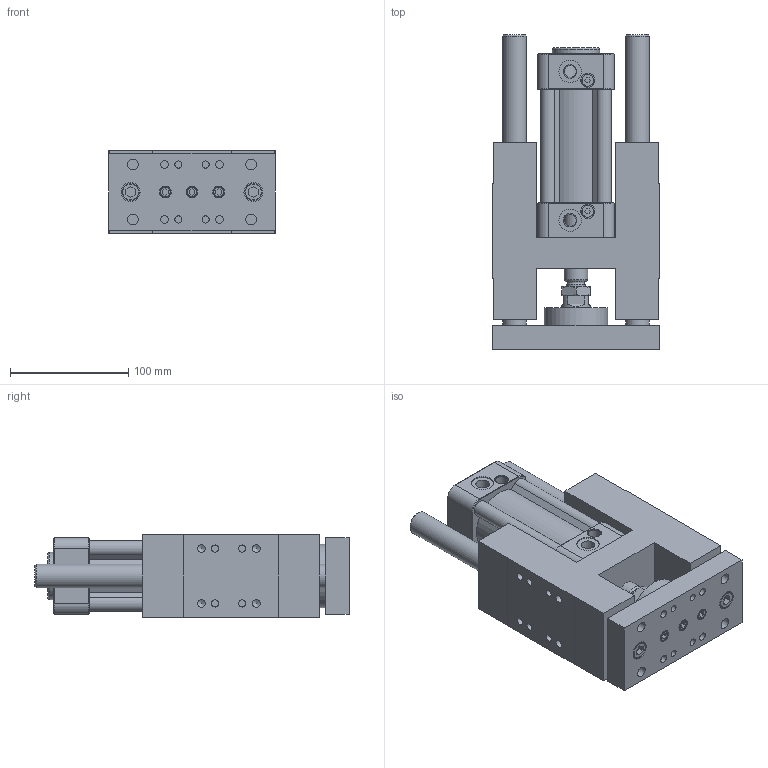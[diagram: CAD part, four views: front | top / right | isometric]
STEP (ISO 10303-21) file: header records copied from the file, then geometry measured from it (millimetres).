
FILE_DESCRIPTION((''),'2;1');
FILE_NAME('I:\3D電子目錄\氣缸\GHB(U)\GHB(U)\GHB(U)50\GHB(U)50x50.stp','2007-10-19T16:36:41',('Administrator'),(''),'Autodesk Inventor 11','Autodesk Inventor 11','');
FILE_SCHEMA(('AUTOMOTIVE_DESIGN { 1 0 10303 214 1 1 1 1 }'));
Length unit declared in the file: millimetre
Products named in the file (1): GHB(U)50
Bounding box: 141 x 266 x 70 mm (x, y, z)
Volume: 1423175.7 mm3; surface area: 257371.4 mm2
Topology: 1 solids, 13 shells, 779 faces, 1736 edges, 1075 vertices
Faces by surface type: plane 299, bspline 222, cylinder 163, cone 88, torus 7
Full cylindrical faces by diameter (mm): 2.5 x2, 6 x8, 6.647 x4, 6.7 x2, 6.75 x4, 7.25 x2, 7.4 x4, 7.5 x2, 8.5 x9, 9 x2, 9.8 x4, 10 x5, 11.5 x1, 11.9 x1, 12 x3, 13 x4, 14 x8, 14.5 x2, 16 x3, 19 x2, 20 x4, 23 x1, 25 x1, 26 x2, 40 x1, 50 x1, 54 x1
Entity records: 22633 total; most frequent: CARTESIAN_POINT 7068, DIRECTION 3100, ORIENTED_EDGE 3020, EDGE_CURVE 1510, AXIS2_PLACEMENT_3D 1202, EDGE_LOOP 1071, VERTEX_POINT 1029, FACE_OUTER_BOUND 778
